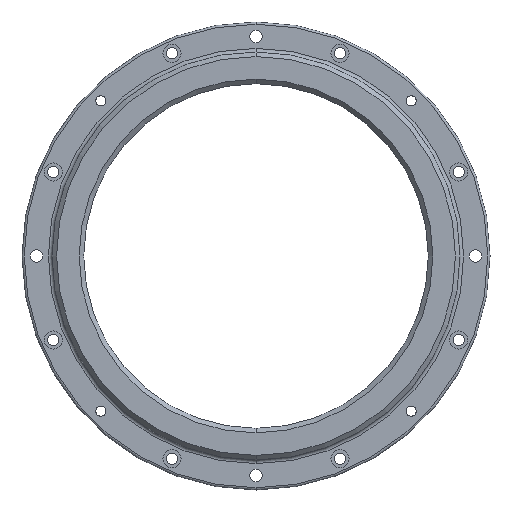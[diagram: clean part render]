
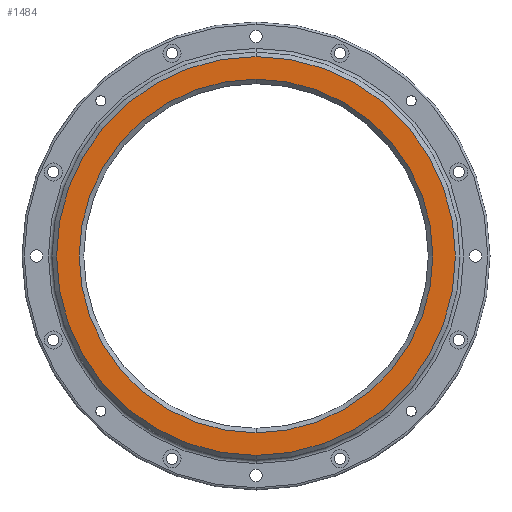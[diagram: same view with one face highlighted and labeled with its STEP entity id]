
A CAD part, front view. The second image highlights one B-rep face of the part: STEP entity #1484.
In plain terms, the highlighted planar face has unit normal (0, -1, 0).
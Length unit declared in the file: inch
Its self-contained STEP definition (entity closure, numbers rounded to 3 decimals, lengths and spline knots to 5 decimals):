
#140 = DIRECTION ( 'NONE',  ( 0., 1., 0. ) ) ;
#211 = DIRECTION ( 'NONE',  ( 0., 0., -1. ) ) ;
#447 = EDGE_CURVE ( 'NONE', #2169, #2043, #2814, .T. ) ;
#471 = CIRCLE ( 'NONE', #584, 2.4375 ) ;
#478 = DIRECTION ( 'NONE',  ( 0., -1., 0. ) ) ;
#513 = AXIS2_PLACEMENT_3D ( 'NONE', #1587, #478, #1011 ) ;
#584 = AXIS2_PLACEMENT_3D ( 'NONE', #1453, #2260, #3348 ) ;
#681 = DIRECTION ( 'NONE',  ( 0., 0., -1. ) ) ;
#699 = CARTESIAN_POINT ( 'NONE',  ( 0., 0., -2.7485 ) ) ;
#1011 = DIRECTION ( 'NONE',  ( 0., 0., -1. ) ) ;
#1384 = VERTEX_POINT ( 'NONE', #2282 ) ;
#1399 = ORIENTED_EDGE ( 'NONE', *, *, #2764, .T. ) ;
#1453 = CARTESIAN_POINT ( 'NONE',  ( 0., 0., 0. ) ) ;
#1484 = ADVANCED_FACE ( 'NONE', ( #2850, #2340 ), #3441, .T. ) ;
#1518 = DIRECTION ( 'NONE',  ( 0., 0., -1. ) ) ;
#1578 = CIRCLE ( 'NONE', #2934, 2.7485 ) ;
#1587 = CARTESIAN_POINT ( 'NONE',  ( 0., 0., 0. ) ) ;
#1772 = ORIENTED_EDGE ( 'NONE', *, *, #447, .T. ) ;
#1808 = CARTESIAN_POINT ( 'NONE',  ( -2.811, 0., 0. ) ) ;
#1873 = EDGE_LOOP ( 'NONE', ( #3040, #1772 ) ) ;
#1889 = EDGE_CURVE ( 'NONE', #1384, #2922, #471, .T. ) ;
#2022 = ORIENTED_EDGE ( 'NONE', *, *, #1889, .T. ) ;
#2043 = VERTEX_POINT ( 'NONE', #2486 ) ;
#2113 = DIRECTION ( 'NONE',  ( 0., -1., 0. ) ) ;
#2117 = CIRCLE ( 'NONE', #3025, 2.4375 ) ;
#2169 = VERTEX_POINT ( 'NONE', #699 ) ;
#2260 = DIRECTION ( 'NONE',  ( 0., 1., 0. ) ) ;
#2262 = AXIS2_PLACEMENT_3D ( 'NONE', #1808, #3136, #211 ) ;
#2282 = CARTESIAN_POINT ( 'NONE',  ( 0., 0., -2.4375 ) ) ;
#2340 = FACE_OUTER_BOUND ( 'NONE', #1873, .T. ) ;
#2430 = EDGE_CURVE ( 'NONE', #2043, #2169, #1578, .T. ) ;
#2486 = CARTESIAN_POINT ( 'NONE',  ( 0., 0., 2.7485 ) ) ;
#2549 = CARTESIAN_POINT ( 'NONE',  ( 0., 0., 0. ) ) ;
#2609 = CARTESIAN_POINT ( 'NONE',  ( 0., 0., 0. ) ) ;
#2764 = EDGE_CURVE ( 'NONE', #2922, #1384, #2117, .T. ) ;
#2814 = CIRCLE ( 'NONE', #513, 2.7485 ) ;
#2850 = FACE_BOUND ( 'NONE', #3473, .T. ) ;
#2922 = VERTEX_POINT ( 'NONE', #3261 ) ;
#2934 = AXIS2_PLACEMENT_3D ( 'NONE', #2609, #2113, #1518 ) ;
#3025 = AXIS2_PLACEMENT_3D ( 'NONE', #2549, #140, #681 ) ;
#3040 = ORIENTED_EDGE ( 'NONE', *, *, #2430, .T. ) ;
#3136 = DIRECTION ( 'NONE',  ( 0., -1., 0. ) ) ;
#3261 = CARTESIAN_POINT ( 'NONE',  ( 0., 0., 2.4375 ) ) ;
#3348 = DIRECTION ( 'NONE',  ( 0., 0., -1. ) ) ;
#3441 = PLANE ( 'NONE',  #2262 ) ;
#3473 = EDGE_LOOP ( 'NONE', ( #2022, #1399 ) ) ;
